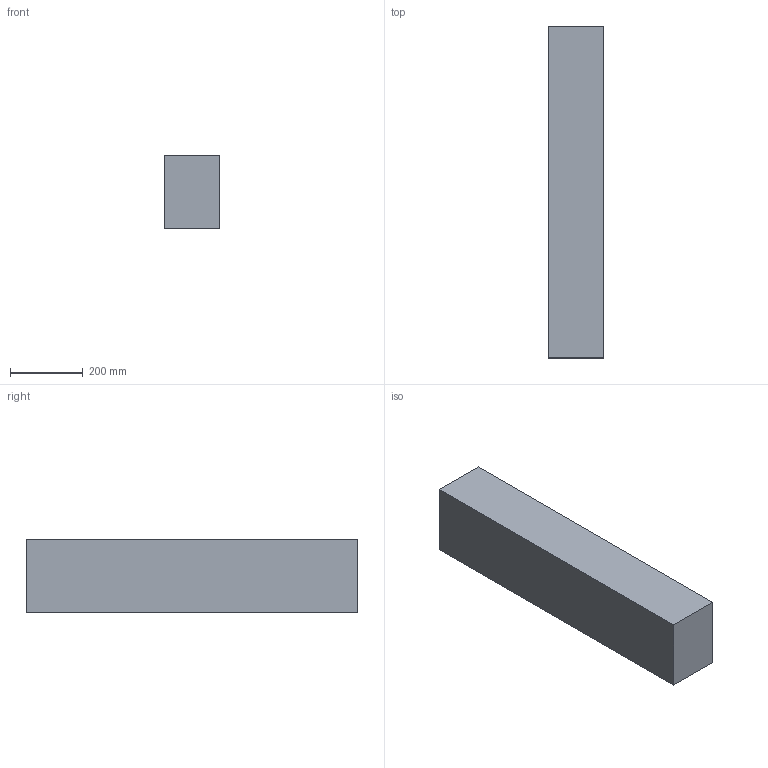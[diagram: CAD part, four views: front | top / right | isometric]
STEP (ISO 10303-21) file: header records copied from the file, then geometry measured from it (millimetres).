
FILE_DESCRIPTION(/* description */ (''),/* implementation_level */ '2;1');
FILE_NAME(/* name */ '6x8x36',/* time_stamp */ '2024-09-20T11:46:59-05:00',/* author */ (''),/* organization */ (''),/* preprocessor_version */ 'ST-DEVELOPER v19.2',/* originating_system */ 'Rhino 8.5',/* authorisation */ '');
FILE_SCHEMA (('CONFIG_CONTROL_DESIGN'));
Length unit declared in the file: inch
Products named in the file (1): Document
Bounding box: 152.4 x 914.4 x 203.2 mm (x, y, z)
Volume: 28316846.6 mm3; surface area: 712256.6 mm2
Topology: 1 solids, 1 shells, 6 faces, 12 edges, 8 vertices
Faces by surface type: plane 6
Entity records: 226 total; most frequent: CARTESIAN_POINT 40, ORIENTED_EDGE 24, EDGE_CURVE 12, B_SPLINE_CURVE_WITH_KNOTS 12, DIRECTION 10, VERTEX_POINT 8, AXIS2_PLACEMENT_3D 8, ORGANIZATION 7
